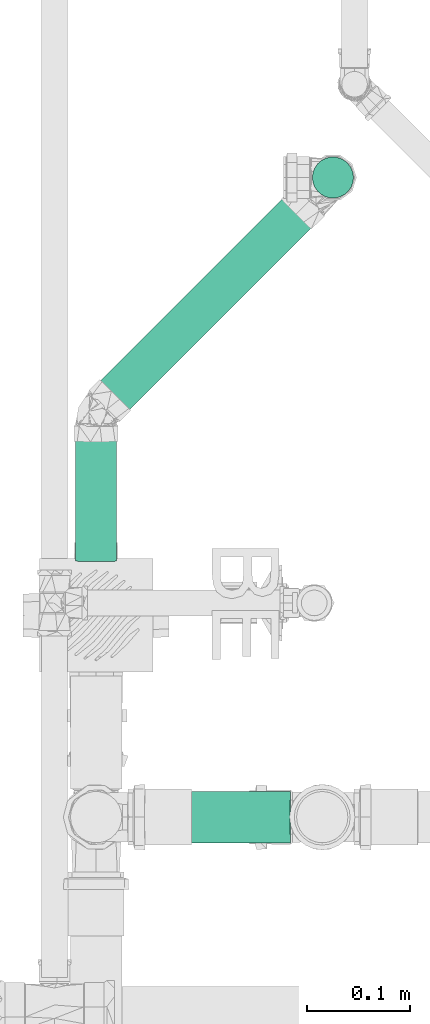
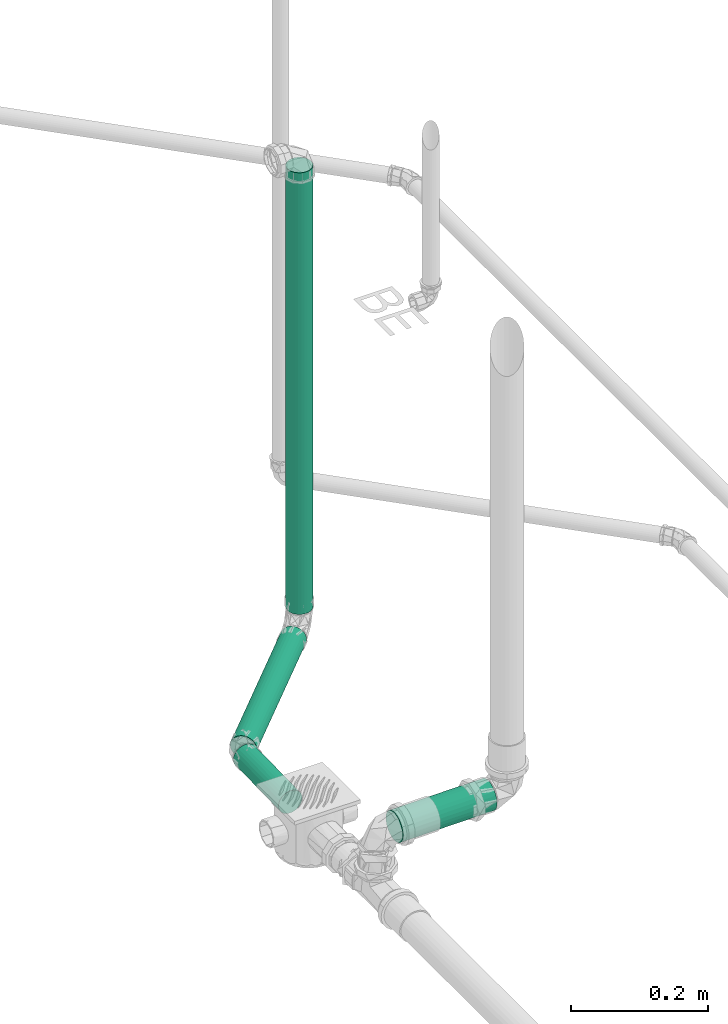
# One storey, part 144 of 589: 4 flow segments.
"""IFC2X3 building model written with IfcOpenShell, lengths in millimetres."""

from ifc_helpers import new_model, entity, si_unit, converted_unit, derived_unit, direction, frame, frame_2d, origin, origin_2d_with_axis, place, context, subcontext, project, spatial, circle, extrude, type_object, element, save


model = new_model("IFC2X3")

# Units and contexts
model_context = context("Model", 3, precision=0.01, world=origin(), true_north=direction((6.123031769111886e-17, 1.0)))
body_context = subcontext(model_context, "Body", "Model", "MODEL_VIEW")
ifc_project = project(units=[si_unit("LENGTHUNIT", "METRE", prefix="MILLI"), si_unit("AREAUNIT", "SQUARE_METRE"), si_unit("VOLUMEUNIT", "CUBIC_METRE"), converted_unit("PLANEANGLEUNIT", "DEGREE", entity("IfcRatioMeasure", 0.017453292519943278), si_unit("PLANEANGLEUNIT", "RADIAN"), dimensions=[0, 0, 0, 0, 0, 0, 0]), si_unit("MASSUNIT", "GRAM", prefix="KILO"), derived_unit("MASSDENSITYUNIT", [(si_unit("MASSUNIT", "GRAM", prefix="KILO"), 1), (si_unit("LENGTHUNIT", "METRE"), -3)]), derived_unit("IONCONCENTRATIONUNIT", [(si_unit("MASSUNIT", "GRAM", prefix="KILO"), 1), (si_unit("LENGTHUNIT", "METRE"), -3)]), derived_unit("MOMENTOFINERTIAUNIT", [(si_unit("LENGTHUNIT", "METRE"), 4)]), si_unit("TIMEUNIT", "SECOND"), si_unit("FREQUENCYUNIT", "HERTZ"), si_unit("THERMODYNAMICTEMPERATUREUNIT", "DEGREE_CELSIUS"), derived_unit("THERMALTRANSMITTANCEUNIT", [(si_unit("MASSUNIT", "GRAM", prefix="KILO"), 1), (si_unit("THERMODYNAMICTEMPERATUREUNIT", "KELVIN"), -1), (si_unit("TIMEUNIT", "SECOND"), -3)]), derived_unit("THERMALCONDUCTANCEUNIT", [(si_unit("MASSUNIT", "GRAM", prefix="KILO"), 1), (si_unit("THERMODYNAMICTEMPERATUREUNIT", "KELVIN"), -1), (si_unit("TIMEUNIT", "SECOND"), -3), (si_unit("LENGTHUNIT", "METRE"), 1)]), derived_unit("VOLUMETRICFLOWRATEUNIT", [(si_unit("LENGTHUNIT", "METRE"), 3), (si_unit("TIMEUNIT", "SECOND"), -1)]), derived_unit("MASSFLOWRATEUNIT", [(si_unit("MASSUNIT", "GRAM", prefix="KILO"), 1), (si_unit("TIMEUNIT", "SECOND"), -1)]), derived_unit("ROTATIONALFREQUENCYUNIT", [(si_unit("TIMEUNIT", "SECOND"), -1)]), si_unit("ELECTRICCURRENTUNIT", "AMPERE"), si_unit("ELECTRICVOLTAGEUNIT", "VOLT"), si_unit("POWERUNIT", "WATT"), si_unit("FORCEUNIT", "NEWTON", prefix="KILO"), si_unit("ILLUMINANCEUNIT", "LUX"), si_unit("LUMINOUSFLUXUNIT", "LUMEN"), si_unit("LUMINOUSINTENSITYUNIT", "CANDELA"), derived_unit("USERDEFINED", [(si_unit("MASSUNIT", "GRAM", prefix="KILO"), -1), (si_unit("LENGTHUNIT", "METRE"), -2), (si_unit("TIMEUNIT", "SECOND"), 3), (si_unit("LUMINOUSFLUXUNIT", "LUMEN"), 1)]), derived_unit("USERDEFINED", [(si_unit("MASSUNIT", "GRAM", prefix="KILO"), 1), (si_unit("TIMEUNIT", "SECOND"), -3), (si_unit("LENGTHUNIT", "METRE"), 3), (si_unit("ELECTRICCURRENTUNIT", "AMPERE"), -2)]), derived_unit("SOUNDPOWERUNIT", [(si_unit("MASSUNIT", "GRAM", prefix="KILO"), 1), (si_unit("TIMEUNIT", "SECOND"), -3), (si_unit("LENGTHUNIT", "METRE"), 2)]), derived_unit("SOUNDPRESSUREUNIT", [(si_unit("MASSUNIT", "GRAM", prefix="KILO"), 1), (si_unit("LENGTHUNIT", "METRE"), -1), (si_unit("TIMEUNIT", "SECOND"), -2)]), derived_unit("LINEARVELOCITYUNIT", [(si_unit("LENGTHUNIT", "METRE"), 1), (si_unit("TIMEUNIT", "SECOND"), -1)]), si_unit("PRESSUREUNIT", "PASCAL"), derived_unit("USERDEFINED", [(si_unit("MASSUNIT", "GRAM", prefix="KILO"), 1), (si_unit("LENGTHUNIT", "METRE"), -2), (si_unit("TIMEUNIT", "SECOND"), -2)]), derived_unit("LINEARFORCEUNIT", [(si_unit("MASSUNIT", "GRAM", prefix="KILO"), 1), (si_unit("TIMEUNIT", "SECOND"), -2)]), derived_unit("PLANARFORCEUNIT", [(si_unit("MASSUNIT", "GRAM", prefix="KILO"), 1), (si_unit("LENGTHUNIT", "METRE"), -1), (si_unit("TIMEUNIT", "SECOND"), -2)]), derived_unit("SPECIFICHEATCAPACITYUNIT", [(si_unit("THERMODYNAMICTEMPERATUREUNIT", "KELVIN"), -1), (si_unit("LENGTHUNIT", "METRE"), 2), (si_unit("TIMEUNIT", "SECOND"), -2)]), derived_unit("HEATINGVALUEUNIT", [(si_unit("LENGTHUNIT", "METRE"), 2), (si_unit("TIMEUNIT", "SECOND"), -2)]), derived_unit("VAPORPERMEABILITYUNIT", [(si_unit("LENGTHUNIT", "METRE"), -1), (si_unit("TIMEUNIT", "SECOND"), 1)]), derived_unit("DYNAMICVISCOSITYUNIT", [(si_unit("MASSUNIT", "GRAM", prefix="KILO"), 1), (si_unit("TIMEUNIT", "SECOND"), -1), (si_unit("LENGTHUNIT", "METRE"), -1)]), derived_unit("THERMALEXPANSIONCOEFFICIENTUNIT", [(si_unit("THERMODYNAMICTEMPERATUREUNIT", "KELVIN"), -1)]), derived_unit("MODULUSOFELASTICITYUNIT", [(si_unit("MASSUNIT", "GRAM", prefix="KILO"), 1), (si_unit("LENGTHUNIT", "METRE"), -1), (si_unit("TIMEUNIT", "SECOND"), -2)]), derived_unit("ISOTHERMALMOISTURECAPACITYUNIT", [(si_unit("LENGTHUNIT", "METRE"), 3), (si_unit("MASSUNIT", "GRAM", prefix="KILO"), -1)]), derived_unit("MOISTUREDIFFUSIVITYUNIT", [(si_unit("TIMEUNIT", "SECOND"), -1), (si_unit("LENGTHUNIT", "METRE"), 2)])], contexts=[model_context])

# Site, building, storey
site_placement = place(None, origin())
site = spatial("IfcSite", under=ifc_project, at=site_placement, Name="Default", CompositionType="ELEMENT")
building_placement = place(site_placement, origin())
building = spatial("IfcBuilding", under=site, at=building_placement, CompositionType="ELEMENT")
storey_placement = place(building_placement, frame((0.0, 0.0, 100.0)))
storey = spatial("IfcBuildingStorey", under=building, at=storey_placement, Name="TÉRREO", CompositionType="ELEMENT", Elevation=100.0)

# Flow segments
pipe_segment_type = type_object("IfcPipeSegmentType", Name="Tipos de tubos:PVC Esgoto Série Normal", PredefinedType="NOTDEFINED")
flow_segment_1_placement = place(storey_placement, origin())
element("IfcFlowSegment", 1, at=flow_segment_1_placement, inside=storey, type_object=pipe_segment_type, Name="Tipos de tubos:PVC Esgoto Série Normal", ObjectType="Tipos de tubos:PVC Esgoto Série Normal", context=body_context, shape_type="SweptSolid", body=[
    extrude(circle(Radius=20.0, at=frame_2d((0.0, -3.856942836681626e-14), x_axis=(1.0, 0.0))), frame((7449.442851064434, -8173.74002828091, -246.19382382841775), z_axis=(0.0, 0.999800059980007, 0.019996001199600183), x_axis=(1.0, 0.0, 0.0)), (0.0, 0.0, 1.0), 131.4525345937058),
])
flow_segment_2_placement = place(storey_placement, origin())
element("IfcFlowSegment", 2, at=flow_segment_2_placement, inside=storey, type_object=pipe_segment_type, Name="Tipos de tubos:PVC Esgoto Série Normal", ObjectType="Tipos de tubos:PVC Esgoto Série Normal", context=body_context, shape_type="SweptSolid", body=[
    extrude(circle(Radius=20.0, at=frame_2d((-7.656261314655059e-13, -2.7745696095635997e-14), x_axis=(1.0, 0.0))), frame((7457.573507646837, -8022.6885595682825, -243.17279445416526), z_axis=(0.7071067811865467, 0.7069654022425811, 0.014139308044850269), x_axis=(-0.7070360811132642, 0.7071774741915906, 0.0)), (0.0, 0.0, 1.0), 281.91277644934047),
])
flow_segment_3_placement = place(storey_placement, origin())
element("IfcFlowSegment", 3, at=flow_segment_3_placement, inside=storey, type_object=pipe_segment_type, Name="Tipos de tubos:PVC Esgoto Série Normal", ObjectType="Tipos de tubos:PVC Esgoto Série Normal", context=body_context, shape_type="SweptSolid", body=[
    extrude(circle(Radius=20.0, at=origin_2d_with_axis()), frame((7679.857603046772, -7800.541720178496, -206.35015175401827)), (0.0, 0.0, 1.0), 784.5501517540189),
])
flow_segment_4_placement = place(storey_placement, origin())
element("IfcFlowSegment", 4, at=flow_segment_4_placement, inside=storey, type_object=pipe_segment_type, Name="Tipos de tubos:PVC Esgoto Série Normal", ObjectType="Tipos de tubos:PVC Esgoto Série Normal", context=body_context, shape_type="SweptSolid", body=[
    extrude(circle(Radius=25.0, at=frame_2d((0.0, -3.620655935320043e-14), x_axis=(1.0, 0.0))), frame((7480.38260408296, -8422.90630799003, -149.69060246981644), z_axis=(0.9999500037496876, 0.0, 0.00999950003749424), x_axis=(0.0, -1.0, 0.0)), (0.0, 0.0, 1.0), 158.1283997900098),
])

save(model, "model.ifc")
